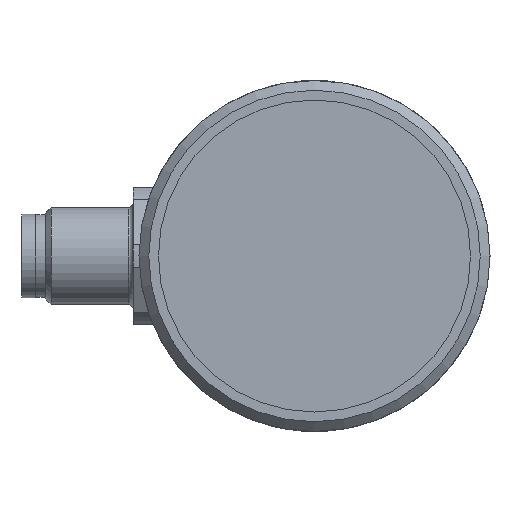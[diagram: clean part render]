
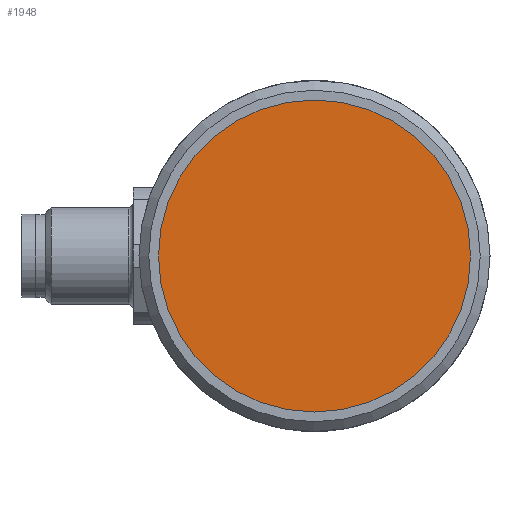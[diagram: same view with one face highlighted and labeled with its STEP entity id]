
A CAD part, left-side view. The second image highlights one B-rep face of the part: STEP entity #1948.
In plain terms, the highlighted planar face has unit normal (-1, 0, 0).
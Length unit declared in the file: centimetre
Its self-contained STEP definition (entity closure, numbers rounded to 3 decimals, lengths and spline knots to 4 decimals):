
#630=VERTEX_POINT('',#2794);
#789=CIRCLE('',#2084,0.8);
#895=EDGE_CURVE('',#630,#630,#789,.T.);
#1148=ORIENTED_EDGE('',*,*,#895,.T.);
#1611=EDGE_LOOP('',(#1148));
#1784=FACE_BOUND('',#1611,.T.);
#1948=ADVANCED_FACE('',(#1784),#3523,.F.);
#2084=AXIS2_PLACEMENT_3D('',#2793,#2322,#2323);
#2085=AXIS2_PLACEMENT_3D('',#2795,#2324,$);
#2322=DIRECTION('',(-1.,0.,0.));
#2323=DIRECTION('',(0.,0.,-0.8));
#2324=DIRECTION('',(1.,0.,0.));
#2793=CARTESIAN_POINT('',(-1.3,0.,0.));
#2794=CARTESIAN_POINT('',(-1.3,0.,-0.8));
#2795=CARTESIAN_POINT('',(-1.3,0.,0.));
#3523=PLANE('',#2085);
